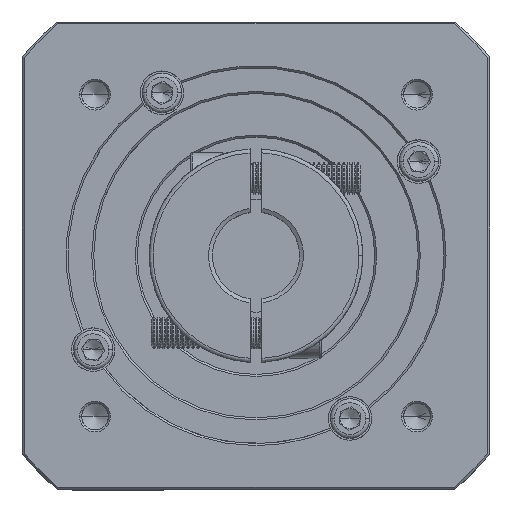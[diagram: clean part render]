
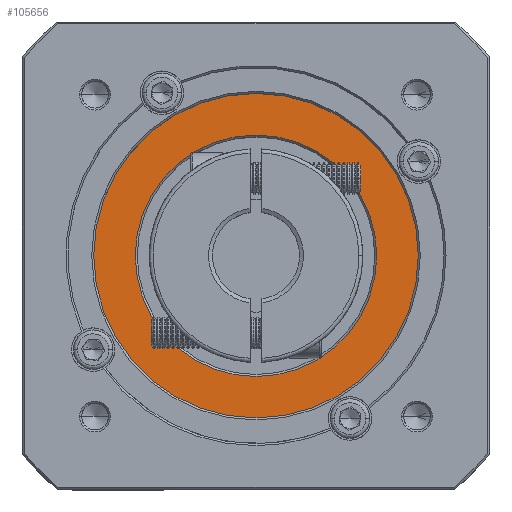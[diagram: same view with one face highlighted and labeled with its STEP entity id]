
A CAD part, top view. The second image highlights one B-rep face of the part: STEP entity #105656.
In plain terms, the highlighted planar face has unit normal (0, 0, 1).
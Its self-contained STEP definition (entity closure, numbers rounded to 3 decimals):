
#1460 = PLANE ( 'NONE',  #70130 ) ;
#4657 = CARTESIAN_POINT ( 'NONE',  ( 10.341, 116.278, -3.077 ) ) ;
#6462 = CIRCLE ( 'NONE', #38492, 30.5 ) ;
#9851 = CARTESIAN_POINT ( 'NONE',  ( 40.841, 116.278, -3.077 ) ) ;
#10039 = CARTESIAN_POINT ( 'NONE',  ( 40.841, 116.278, -3.077 ) ) ;
#13529 = CARTESIAN_POINT ( 'NONE',  ( 40.841, 116.278, -3.077 ) ) ;
#13798 = EDGE_CURVE ( 'NONE', #95512, #26799, #6462, .T. ) ;
#14310 = DIRECTION ( 'NONE',  ( 1., 0., 0. ) ) ;
#14585 = CARTESIAN_POINT ( 'NONE',  ( 40.841, 116.278, -3.077 ) ) ;
#23303 = CARTESIAN_POINT ( 'NONE',  ( 40.841, 116.278, -3.077 ) ) ;
#26546 = EDGE_LOOP ( 'NONE', ( #72359, #43757 ) ) ;
#26799 = VERTEX_POINT ( 'NONE', #51150 ) ;
#31803 = DIRECTION ( 'NONE',  ( 0., 0., -1. ) ) ;
#37406 = DIRECTION ( 'NONE',  ( 1., 0., 0. ) ) ;
#38492 = AXIS2_PLACEMENT_3D ( 'NONE', #14585, #31803, #75470 ) ;
#39084 = AXIS2_PLACEMENT_3D ( 'NONE', #9851, #99708, #81298 ) ;
#43757 = ORIENTED_EDGE ( 'NONE', *, *, #108153, .T. ) ;
#51150 = CARTESIAN_POINT ( 'NONE',  ( 71.341, 116.278, -3.077 ) ) ;
#56680 = VERTEX_POINT ( 'NONE', #100584 ) ;
#56706 = ORIENTED_EDGE ( 'NONE', *, *, #73857, .T. ) ;
#57305 = DIRECTION ( 'NONE',  ( 0., 0., 1. ) ) ;
#57657 = VERTEX_POINT ( 'NONE', #82324 ) ;
#61148 = CIRCLE ( 'NONE', #115577, 30.5 ) ;
#65605 = FACE_BOUND ( 'NONE', #87048, .T. ) ;
#70130 = AXIS2_PLACEMENT_3D ( 'NONE', #10039, #109544, #37406 ) ;
#72359 = ORIENTED_EDGE ( 'NONE', *, *, #97084, .T. ) ;
#73857 = EDGE_CURVE ( 'NONE', #26799, #95512, #61148, .T. ) ;
#75470 = DIRECTION ( 'NONE',  ( 1., 0., 0. ) ) ;
#76386 = DIRECTION ( 'NONE',  ( 0., 0., -1. ) ) ;
#81298 = DIRECTION ( 'NONE',  ( 1., 0., 0. ) ) ;
#82324 = CARTESIAN_POINT ( 'NONE',  ( -0.159, 116.278, -3.077 ) ) ;
#84192 = DIRECTION ( 'NONE',  ( 1., 0., 0. ) ) ;
#87048 = EDGE_LOOP ( 'NONE', ( #56706, #105944 ) ) ;
#91074 = CIRCLE ( 'NONE', #39084, 41. ) ;
#92169 = FACE_OUTER_BOUND ( 'NONE', #26546, .T. ) ;
#95512 = VERTEX_POINT ( 'NONE', #4657 ) ;
#97084 = EDGE_CURVE ( 'NONE', #56680, #57657, #103029, .T. ) ;
#99708 = DIRECTION ( 'NONE',  ( 0., 0., 1. ) ) ;
#100584 = CARTESIAN_POINT ( 'NONE',  ( 81.841, 116.278, -3.077 ) ) ;
#103029 = CIRCLE ( 'NONE', #111110, 41. ) ;
#105656 = ADVANCED_FACE ( 'NONE', ( #92169, #65605 ), #1460, .T. ) ;
#105944 = ORIENTED_EDGE ( 'NONE', *, *, #13798, .T. ) ;
#108153 = EDGE_CURVE ( 'NONE', #57657, #56680, #91074, .T. ) ;
#109544 = DIRECTION ( 'NONE',  ( 0., 0., 1. ) ) ;
#111110 = AXIS2_PLACEMENT_3D ( 'NONE', #13529, #57305, #84192 ) ;
#115577 = AXIS2_PLACEMENT_3D ( 'NONE', #23303, #76386, #14310 ) ;
